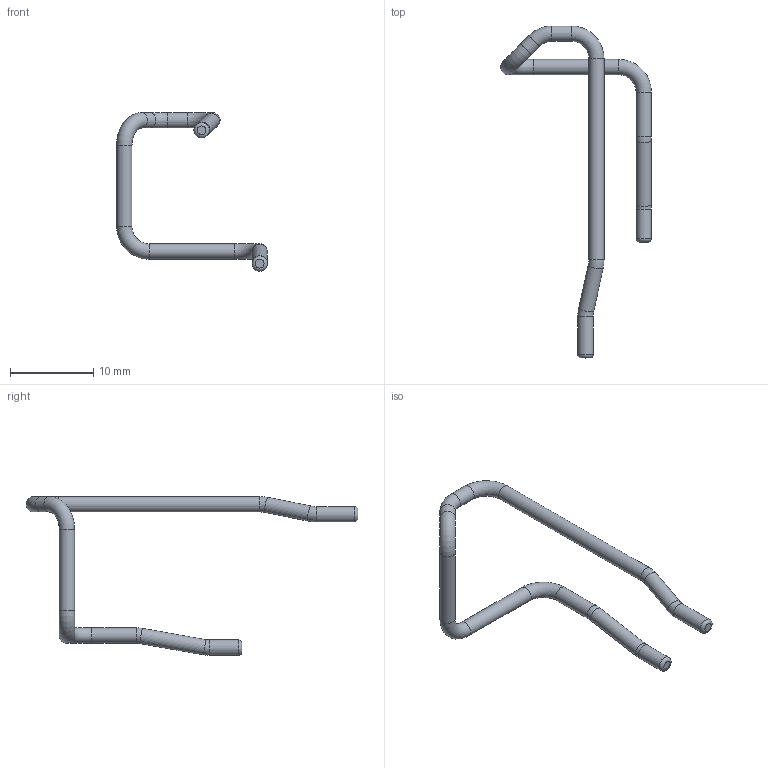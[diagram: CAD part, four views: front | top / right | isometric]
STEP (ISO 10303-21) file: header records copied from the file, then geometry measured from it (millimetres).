
FILE_DESCRIPTION(('Open CASCADE Model'),'2;1');
FILE_NAME('CUT_ROUTE_01_RADIAL_CLEARANCE_0p4','2026-09-15T14:21:30',( 'Author'),('Open CASCADE'),'Open CASCADE STEP processor 7.9', 'build123d','Unknown');
FILE_SCHEMA(('AUTOMOTIVE_DESIGN { 1 0 10303 214 1 1 1 1 }'));
Length unit declared in the file: millimetre
Products named in the file (1): CUT_ROUTE_01_RADIAL_CLEARANCE_0p4
Bounding box: 18.15 x 39.97 x 19.11 mm (x, y, z)
Volume: 267.3 mm3; surface area: 581.9 mm2
Topology: 1 solids, 1 shells, 23 faces, 43 edges, 22 vertices
Faces by surface type: torus 11, cylinder 10, plane 2
Full cylindrical faces by diameter (mm): 1.85 x10
Entity records: 1102 total; most frequent: CARTESIAN_POINT 212, DIRECTION 173, ORIENTED_EDGE 86, PCURVE 86, DEFINITIONAL_REPRESENTATION 86, AXIS2_PLACEMENT_3D 57, LINE 57, VECTOR 57
